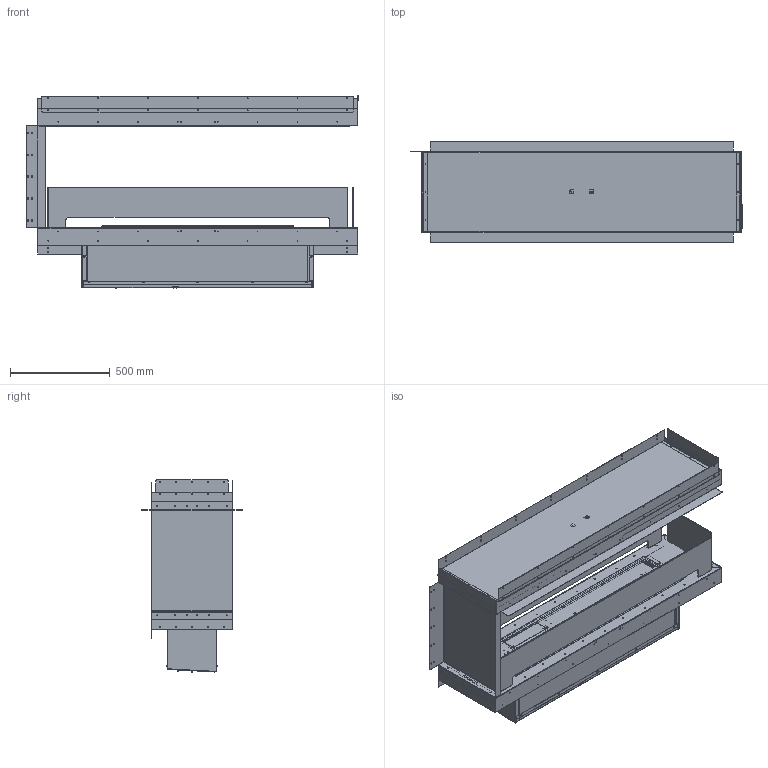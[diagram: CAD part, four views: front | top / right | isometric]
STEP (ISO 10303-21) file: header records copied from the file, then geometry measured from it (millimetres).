
FILE_DESCRIPTION (( 'STEP AP214' ), '1' );
FILE_NAME ('3d_Forma_1500_Room_Divider_FLA3.STEP', '2022-05-30T12:03:01', ( '' ), ( '' ), 'SwSTEP 2.0', 'SolidWorks 2019', '' );
FILE_SCHEMA (( 'AUTOMOTIVE_DESIGN' ));
Length unit declared in the file: millimetre
Products named in the file (51): 000-046-432; B-003-087_B-003-087-1190; 3d_Forma_1500_Room_Divider_FLA3; Nakrêtka wciskana_Sariv S-S M3-3; B-000-462; 000064026; KEYSTONE 5228; 000-056-473_000-056-473_60; 000-042-826_000-042-826-1190; 000-056-471; 000060275_000060275_60DSP; 000060313; 000069177; PZ-FLA3XT-0003; 000057657_000057657_60; 000064025; 000060277_000060277_60; 000-049-267_000-049-267-1190; B-003-091_B-003-091-1190; 000060280_000060280_60; 000-056-480_000-056-480_60; ok1271-08; 000057747_000057747_60; 000059785_000059785-1190 WW; 000056880_000056880_60; 000057659_000057659_60; 000111128; B-003-090; ok1585_ok1585-1190; 024-324-324; 000-049-326_000-049-326-1190; 000-049-266_000-049-266-1190; ok1586; 000100551; B-000-472; 000057660; 000-050-969_000-050-969-1190; Ko³ek gwintowany do zgrzewania_ISO 13918 M4x10; hex tapping screws_iso_Tapping Screw ISO 14585 - ST4.2 x 9.5-C-N; 000060281_000060281_60DSP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
Assembly tree (93 placements, depth 4):
  3d_Forma_1500_Room_Divider_FLA3
    000061618_000061618_60
      000-056-480_000-056-480_60
        000-056-473_000-056-473_60
        000-056-474_000-056-474_60
      000057657_000057657_60
      000057659_000057659_60
      000057660
    000-056-471
    000056880_000056880_60
    000056915
    000057000_000057000_60  x2
    000057747_000057747_60  x2
    000060281_000060281_60DSP
      000060275_000060275_60DSP
      000060277_000060277_60
      000060280_000060280_60
      000060313  x2
      000069177  x2
    000059785_000059785-1190 WW
      000-049-267_000-049-267-1190
        000-049-266_000-049-266-1190
        Ko³ek gwintowany do zgrzewania_ISO 13918 M4x10  x18
        Nakrêtka wciskana_Sariv S-S M3-3  x3
      000-050-969_000-050-969-1190  x2
      000059948_000059948-1190  x2
      000-049-326_000-049-326-1190
      000-042-826_000-042-826-1190  x2
      000-049-813
        024-324-324
        Ko³ek gwintowany do zgrzewania_ISO 13918 M4x10  x2
      ok1585_ok1585-1190
        B-003-087_B-003-087-1190
        B-003-090  x2
        B-000-460  x4
        B-003-091_B-003-091-1190
        B-003-094  x2
        B-000-462  x4
        B-000-472
        000-051-004
      000059955
      PZ-FLA3XT-0003
      ok1586
      hex tapping screws_iso_Tapping Screw ISO 14585 - ST4.2 x 9.5-C-N  x2
      000059906
      000-046-432  x4
      ok1271-08  x4
      KEYSTONE 5228
      000064025
      000064026
      000100551
    000111128
Bounding box: 1666 x 506 x 964.71 mm (x, y, z)
Volume: 12479514.5 mm3; surface area: 13971151.3 mm2
Topology: 99 solids, 99 shells, 3706 faces, 9648 edges, 6177 vertices
Faces by surface type: cylinder 2021, plane 1424, cone 168, torus 48, bspline 41, sphere 4
Entity records: 103282 total; most frequent: CARTESIAN_POINT 22310, DIRECTION 17168, ORIENTED_EDGE 15668, EDGE_CURVE 7834, AXIS2_PLACEMENT_3D 6470, VERTEX_POINT 5032, LINE 4228, VECTOR 4228
